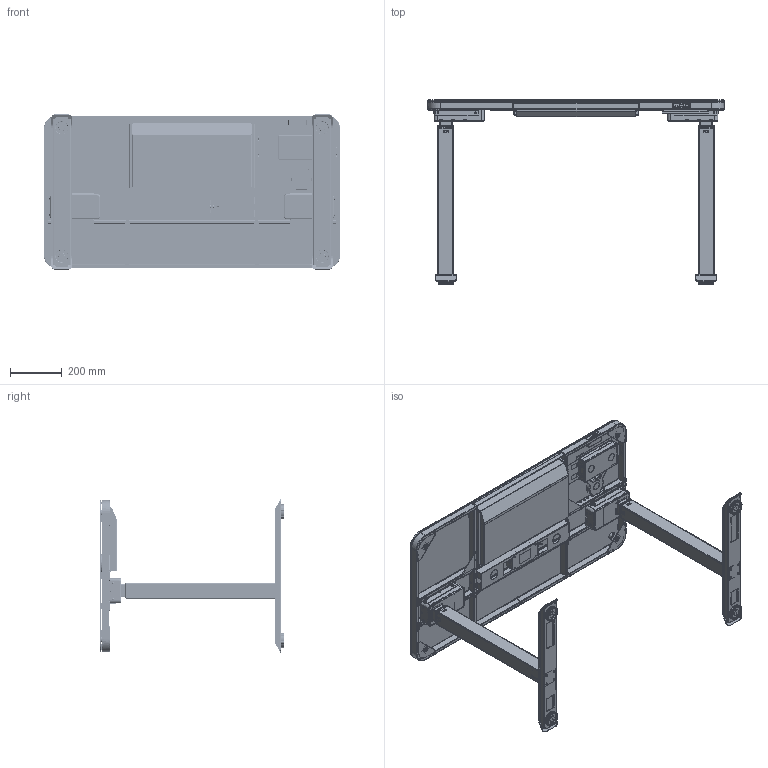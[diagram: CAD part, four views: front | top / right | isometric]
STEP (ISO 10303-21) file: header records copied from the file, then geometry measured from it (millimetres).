
FILE_DESCRIPTION(('CATIA V5 STEP Exchange'),'2;1');
FILE_NAME('F:\胡亚菊\工作\2022年设计申请单\陈丹\T020\工程图\任务单# 生产图及BOM清单\AK-GT10-YZF2-T020.stp','2022-01-17T08:06:21+00:00',('none'),('none'),'CATIA Version 5 Release 21 GA (IN-10)','CATIA V5 STEP AP203','none');
FILE_SCHEMA(('CONFIG_CONTROL_DESIGN'));
Products named in the file (9): AK-GT10-YZF2; 手控器; Product2; 【临时】1.96.008.4411X AK-YZF2-SG01-641_50ESI_上管(隐藏式双电机正装方管两节); 【临时】1.96.008.4412X AK-YZF2-XG01-595_60_下管(隐藏式正装方管两节); 【临时】1.96.008.4413X  AK-DJ01E-600XJ-P_40X40偏心两端斜地脚嵌入式; 新桌框; Product1; 新抽屉
Assembly tree (102 placements, depth 4):
  AK-GT10-YZF2
    手控器
      #66
      #3579
    #10841  x4
    #11230
    #12061
    Product2
      【临时】1.96.008.4411X AK-YZF2-SG01-641_50ESI_上管(隐藏式双电机正装方管两节)
        #13241
        #16099
        #24583
      【临时】1.96.008.4412X AK-YZF2-XG01-595_60_下管(隐藏式正装方管两节)
        #27468
        #28420
      #29202
      #46435
      【临时】1.96.008.4413X  AK-DJ01E-600XJ-P_40X40偏心两端斜地脚嵌入式
        #70701
        #71540
      #74393  x2
    #78556
    #78741  x4
    #79880
    新桌框
      #81133  x4
      #82040  x8
      #82807  x9
      #83192  x4
      #84501  x4
      #84680  x14
      #84885
      #88514
      #94874  x2
      #95685
      #101195
      #107566
      #112013
    #117585
    Product1
      【临时】1.96.008.4411X AK-YZF2-SG01-641_50ESI_上管(隐藏式双电机正装方管两节)
        #13241
        #16099
        #24583
      【临时】1.96.008.4412X AK-YZF2-XG01-595_60_下管(隐藏式正装方管两节)
        #27468
        #28420
      #29202
      #46435
      【临时】1.96.008.4413X  AK-DJ01E-600XJ-P_40X40偏心两端斜地脚嵌入式
        #70701
        #71540
      #74393  x2
    #118702
    #123528
    #124584
    #135205
    #140958
    #142878
    #143890
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Bounding box: 1145 x 710 x 600 mm (x, y, z)
Volume: 7200686.2 mm3; surface area: 5302089.6 mm2
Topology: 99 solids, 99 shells, 7406 faces, 20397 edges, 13233 vertices
Faces by surface type: plane 4584, cylinder 2485, bspline 132, cone 86, torus 69, sphere 40, extrusion 8, revolution 2
Entity records: 160772 total; most frequent: CARTESIAN_POINT 48026, ORIENTED_EDGE 24860, DIRECTION 19726, EDGE_CURVE 12430, VECTOR 8923, LINE 8919, VERTEX_POINT 8059, AXIS2_PLACEMENT_3D 6445
